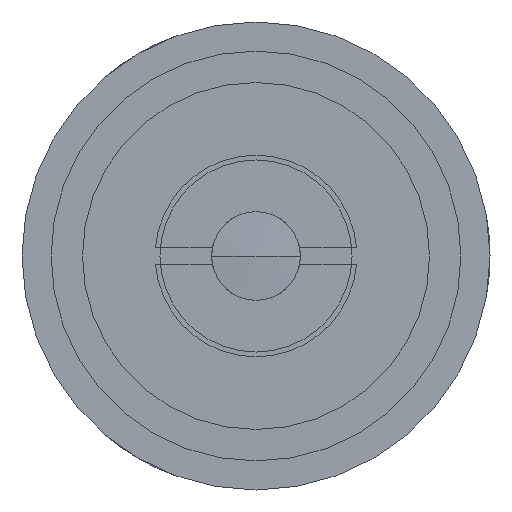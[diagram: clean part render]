
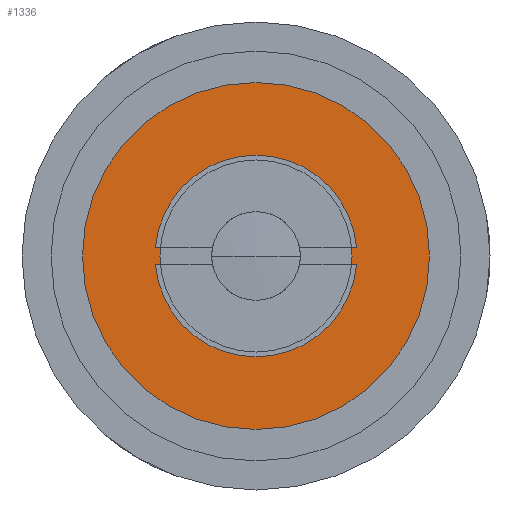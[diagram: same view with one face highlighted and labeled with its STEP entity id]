
A CAD part, front view. The second image highlights one B-rep face of the part: STEP entity #1336.
In plain terms, the highlighted planar face has unit normal (0, -1, 0).
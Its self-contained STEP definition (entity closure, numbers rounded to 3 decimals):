
#73 = CARTESIAN_POINT ( 'NONE',  ( -11.5, -65.93, 0. ) ) ;
#93 = CARTESIAN_POINT ( 'NONE',  ( 0., -65.93, 0. ) ) ;
#110 = AXIS2_PLACEMENT_3D ( 'NONE', #73, #1608, #598 ) ;
#152 = VERTEX_POINT ( 'NONE', #1029 ) ;
#154 = DIRECTION ( 'NONE',  ( 0., 1., 0. ) ) ;
#206 = CARTESIAN_POINT ( 'NONE',  ( 0., -65.93, 0. ) ) ;
#233 = CARTESIAN_POINT ( 'NONE',  ( 0., -65.93, -11.5 ) ) ;
#262 = EDGE_CURVE ( 'NONE', #152, #1891, #2011, .T. ) ;
#280 = EDGE_CURVE ( 'NONE', #916, #1227, #1546, .T. ) ;
#417 = PLANE ( 'NONE',  #110 ) ;
#598 = DIRECTION ( 'NONE',  ( 0., 0., -1. ) ) ;
#663 = ORIENTED_EDGE ( 'NONE', *, *, #1940, .T. ) ;
#704 = DIRECTION ( 'NONE',  ( 0., 1., 0. ) ) ;
#761 = DIRECTION ( 'NONE',  ( 0., 0., 1. ) ) ;
#916 = VERTEX_POINT ( 'NONE', #1878 ) ;
#1017 = AXIS2_PLACEMENT_3D ( 'NONE', #206, #1908, #1184 ) ;
#1029 = CARTESIAN_POINT ( 'NONE',  ( 0., -65.93, 5.95 ) ) ;
#1147 = CARTESIAN_POINT ( 'NONE',  ( 0., -65.93, 0. ) ) ;
#1178 = EDGE_LOOP ( 'NONE', ( #1346, #1734 ) ) ;
#1184 = DIRECTION ( 'NONE',  ( 0., 0., 1. ) ) ;
#1227 = VERTEX_POINT ( 'NONE', #233 ) ;
#1330 = DIRECTION ( 'NONE',  ( 0., 0., 1. ) ) ;
#1336 = ADVANCED_FACE ( 'NONE', ( #1748, #1339 ), #417, .T. ) ;
#1339 = FACE_OUTER_BOUND ( 'NONE', #1178, .T. ) ;
#1346 = ORIENTED_EDGE ( 'NONE', *, *, #280, .F. ) ;
#1546 = CIRCLE ( 'NONE', #1559, 11.5 ) ;
#1559 = AXIS2_PLACEMENT_3D ( 'NONE', #93, #2142, #761 ) ;
#1569 = AXIS2_PLACEMENT_3D ( 'NONE', #1736, #704, #1923 ) ;
#1608 = DIRECTION ( 'NONE',  ( 0., -1., 0. ) ) ;
#1734 = ORIENTED_EDGE ( 'NONE', *, *, #2146, .F. ) ;
#1736 = CARTESIAN_POINT ( 'NONE',  ( 0., -65.93, 0. ) ) ;
#1748 = FACE_BOUND ( 'NONE', #1789, .T. ) ;
#1789 = EDGE_LOOP ( 'NONE', ( #2059, #663 ) ) ;
#1843 = CARTESIAN_POINT ( 'NONE',  ( 0., -65.93, -5.95 ) ) ;
#1857 = CIRCLE ( 'NONE', #1569, 11.5 ) ;
#1860 = AXIS2_PLACEMENT_3D ( 'NONE', #1147, #154, #1330 ) ;
#1878 = CARTESIAN_POINT ( 'NONE',  ( 0., -65.93, 11.5 ) ) ;
#1891 = VERTEX_POINT ( 'NONE', #1843 ) ;
#1908 = DIRECTION ( 'NONE',  ( 0., 1., 0. ) ) ;
#1923 = DIRECTION ( 'NONE',  ( 0., 0., 1. ) ) ;
#1940 = EDGE_CURVE ( 'NONE', #1891, #152, #2071, .T. ) ;
#2011 = CIRCLE ( 'NONE', #1017, 5.95 ) ;
#2059 = ORIENTED_EDGE ( 'NONE', *, *, #262, .T. ) ;
#2071 = CIRCLE ( 'NONE', #1860, 5.95 ) ;
#2142 = DIRECTION ( 'NONE',  ( 0., 1., 0. ) ) ;
#2146 = EDGE_CURVE ( 'NONE', #1227, #916, #1857, .T. ) ;
